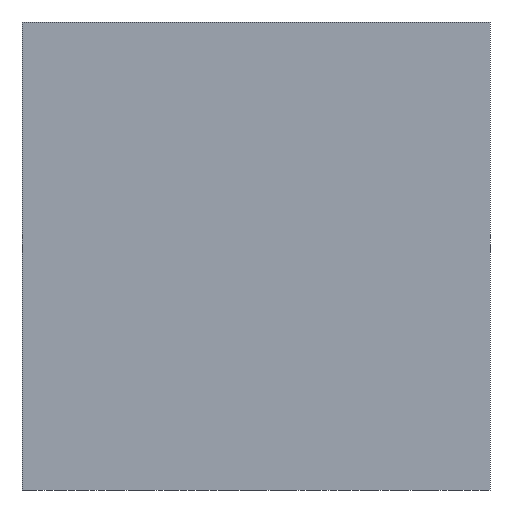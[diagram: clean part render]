
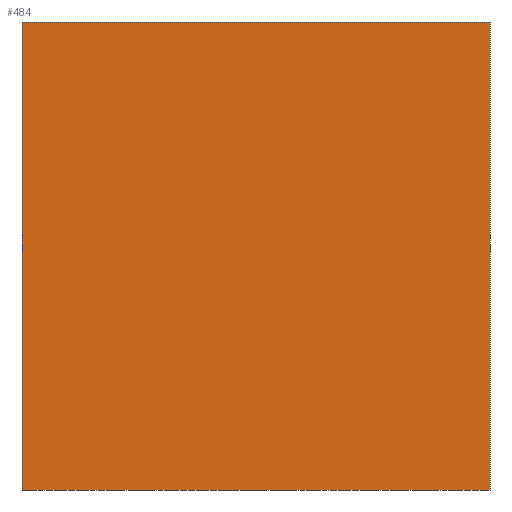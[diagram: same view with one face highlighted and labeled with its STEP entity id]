
A CAD part, front view. The second image highlights one B-rep face of the part: STEP entity #484.
In plain terms, the highlighted planar face has unit normal (0, -1, 0).
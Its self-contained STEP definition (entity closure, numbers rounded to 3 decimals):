
#62 = VERTEX_POINT ( 'NONE', #879 ) ;
#65 = ORIENTED_EDGE ( 'NONE', *, *, #2416, .F. ) ;
#318 = EDGE_CURVE ( 'NONE', #977, #657, #2282, .T. ) ;
#379 = ORIENTED_EDGE ( 'NONE', *, *, #318, .F. ) ;
#454 = VERTEX_POINT ( 'NONE', #1850 ) ;
#484 = ADVANCED_FACE ( 'NONE', ( #1983 ), #1984, .F. ) ;
#555 = EDGE_LOOP ( 'NONE', ( #643, #65, #379, #576 ) ) ;
#576 = ORIENTED_EDGE ( 'NONE', *, *, #1119, .T. ) ;
#632 = EDGE_CURVE ( 'NONE', #454, #62, #1460, .T. ) ;
#643 = ORIENTED_EDGE ( 'NONE', *, *, #632, .T. ) ;
#657 = VERTEX_POINT ( 'NONE', #1644 ) ;
#879 = CARTESIAN_POINT ( 'NONE',  ( 75., 0., 0. ) ) ;
#977 = VERTEX_POINT ( 'NONE', #2048 ) ;
#1119 = EDGE_CURVE ( 'NONE', #977, #454, #2086, .T. ) ;
#1460 = LINE ( 'NONE', #1461, #1462 ) ;
#1461 = CARTESIAN_POINT ( 'NONE',  ( 75., 0., 0. ) ) ;
#1462 = VECTOR ( 'NONE', #1463, 1000. ) ;
#1463 = DIRECTION ( 'NONE',  ( 1., 0., 0. ) ) ;
#1475 = LINE ( 'NONE', #1477, #1478 ) ;
#1477 = CARTESIAN_POINT ( 'NONE',  ( 75., 0., 150. ) ) ;
#1478 = VECTOR ( 'NONE', #1479, 1000. ) ;
#1479 = DIRECTION ( 'NONE',  ( 0., 0., -1. ) ) ;
#1644 = CARTESIAN_POINT ( 'NONE',  ( 75., 0., 150. ) ) ;
#1850 = CARTESIAN_POINT ( 'NONE',  ( -75., 0., 0. ) ) ;
#1983 = FACE_OUTER_BOUND ( 'NONE', #555, .T. ) ;
#1984 = PLANE ( 'NONE',  #1985 ) ;
#1985 = AXIS2_PLACEMENT_3D ( 'NONE', #1986, #1987, #1988 ) ;
#1986 = CARTESIAN_POINT ( 'NONE',  ( 75., 0., 150. ) ) ;
#1987 = DIRECTION ( 'NONE',  ( 0., 1., 0. ) ) ;
#1988 = DIRECTION ( 'NONE',  ( 0., 0., 1. ) ) ;
#2048 = CARTESIAN_POINT ( 'NONE',  ( -75., 0., 150. ) ) ;
#2086 = LINE ( 'NONE', #2087, #2088 ) ;
#2087 = CARTESIAN_POINT ( 'NONE',  ( -75., 0., 150. ) ) ;
#2088 = VECTOR ( 'NONE', #2089, 1000. ) ;
#2089 = DIRECTION ( 'NONE',  ( 0., 0., -1. ) ) ;
#2282 = LINE ( 'NONE', #2283, #2284 ) ;
#2283 = CARTESIAN_POINT ( 'NONE',  ( 75., 0., 150. ) ) ;
#2284 = VECTOR ( 'NONE', #2285, 1000. ) ;
#2285 = DIRECTION ( 'NONE',  ( 1., 0., 0. ) ) ;
#2416 = EDGE_CURVE ( 'NONE', #657, #62, #1475, .T. ) ;
